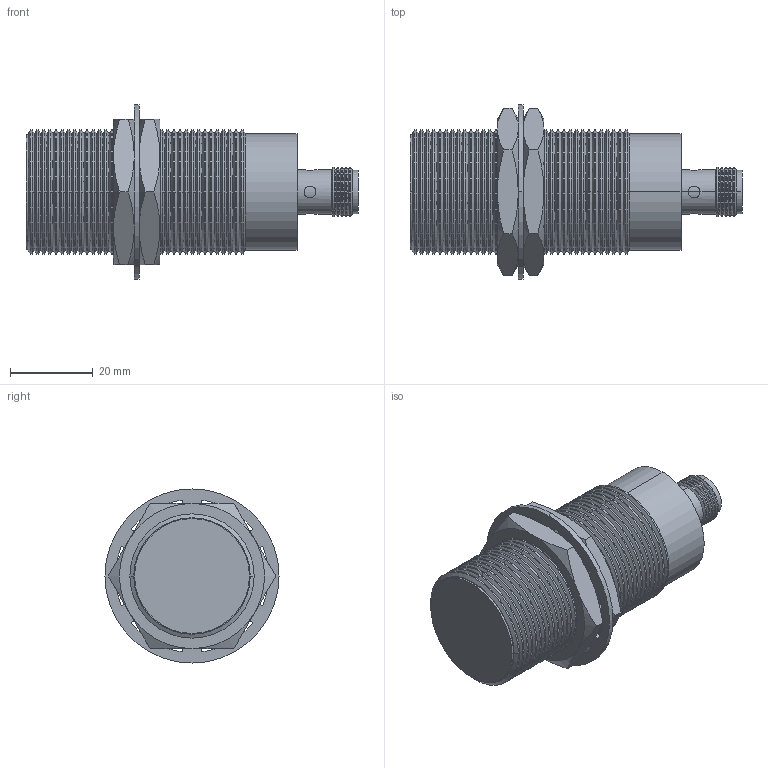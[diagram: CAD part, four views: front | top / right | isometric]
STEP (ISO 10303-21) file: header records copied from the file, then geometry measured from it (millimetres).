
FILE_DESCRIPTION (( 'STEP AP203' ), '1' );
FILE_NAME ('90-29417-082.STEP', '2016-04-29T20:51:45', ( 'Sam' ), ( 'Spade' ), 'SwSTEP 2.0', 'SolidWorks 2002296', '' );
FILE_SCHEMA (( 'CONFIG_CONTROL_DESIGN' ));
Length unit declared in the file: inch
Products named in the file (13): 90-29417-082; Imported59; Imported70; Imported69; Imported63; Imported62; Imported61; Imported60; Imported66; Imported65; Imported64; Imported68; Imported67
Assembly tree (12 placements, depth 2):
  90-29417-082
    Imported68
    Imported60
    Imported63
    Imported61
    Imported66
    Imported67
    Imported65
    Imported59
    Imported69
    Imported64
    Imported70
    Imported62
Bounding box: 80.19 x 42.06 x 42.06 mm (x, y, z)
Volume: 48863.5 mm3; surface area: 20350.5 mm2
Topology: 12 solids, 12 shells, 467 faces, 1103 edges, 654 vertices
Faces by surface type: cone 212, cylinder 162, plane 85, bspline 8
Entity records: 15336 total; most frequent: CARTESIAN_POINT 2967, DIRECTION 2509, ORIENTED_EDGE 2190, EDGE_CURVE 1095, AXIS2_PLACEMENT_3D 1004, VERTEX_POINT 654, CIRCLE 530, LINE 501
